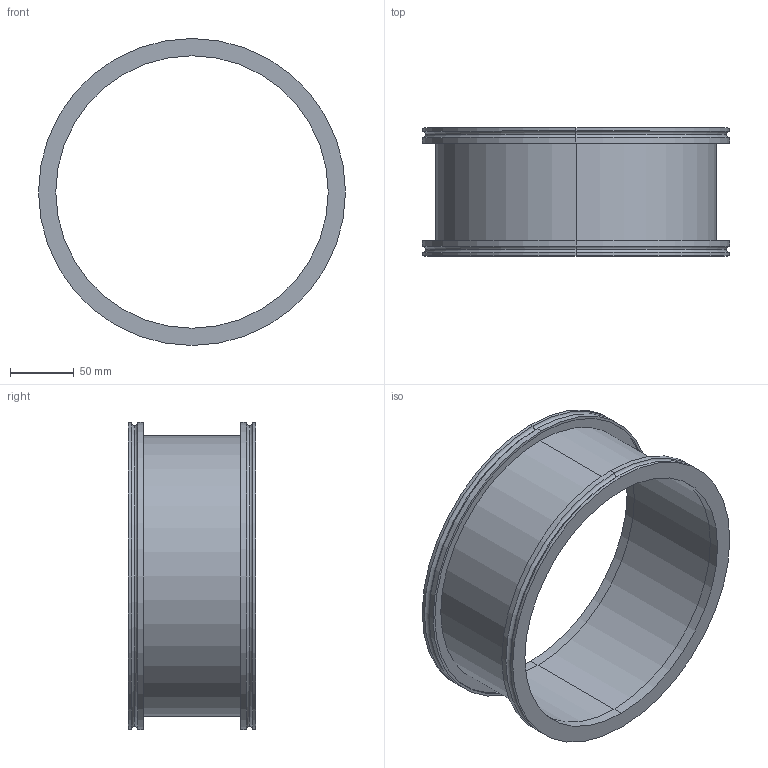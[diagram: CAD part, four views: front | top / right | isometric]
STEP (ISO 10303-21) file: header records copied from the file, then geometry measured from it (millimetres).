
FILE_DESCRIPTION (( 'STEP AP214' ), '1' );
FILE_NAME ('W4ZS200.STEP', '2020-08-24T14:05:25', ( '' ), ( '' ), 'SwSTEP 2.0', 'SolidWorks 2020', '' );
FILE_SCHEMA (( 'AUTOMOTIVE_DESIGN' ));
Length unit declared in the file: millimetre
Products named in the file (1): W4ZS200
Bounding box: 240 x 100 x 240 mm (x, y, z)
Volume: 346292.3 mm3; surface area: 195164.9 mm2
Topology: 3 solids, 3 shells, 42 faces, 84 edges, 52 vertices
Faces by surface type: cylinder 24, plane 10, torus 8
Entity records: 1176 total; most frequent: DIRECTION 230, CARTESIAN_POINT 179, ORIENTED_EDGE 168, AXIS2_PLACEMENT_3D 103, EDGE_CURVE 84, CIRCLE 60, EDGE_LOOP 52, VERTEX_POINT 52
